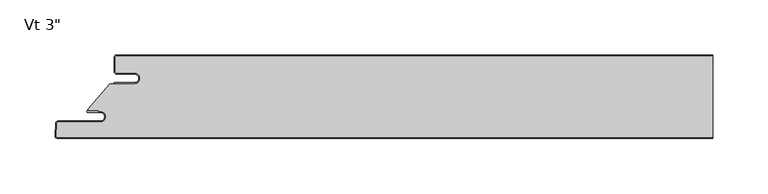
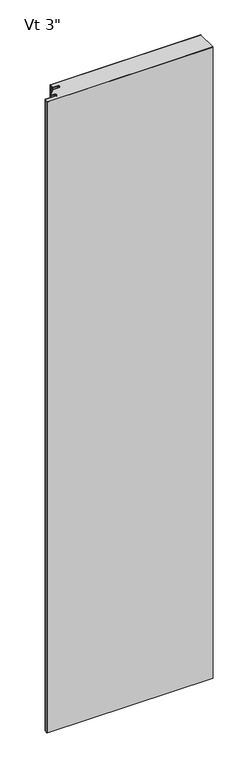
"""IFC4 building model written with IfcOpenShell, lengths in millimetres: plate geometry."""

from ifc_helpers import new_model, si_unit, point, frame_2d, origin, origin_with_axes, place, context, project, spatial, polyline, circle_curve, trimmed, segment, composite_curve, outline, extrude, source, transform, mapped, element, save


def plate_7f3386e1(model_context):
    return source(origin(), model_context, "Body", "SweptSolid", [
        extrude(outline(composite_curve([segment(polyline([(-253.4499998, -16.4625), (-269.3249998, -16.4625)]), True, "CONTINUOUS"), segment(trimmed(circle_curve(frame_2d((-269.3249998, -15.08125)), 1.38125), [point((-269.3249998, -16.4625))], [point((-270.7062498, -15.08125))], False, "CARTESIAN"), True, "CONTINUOUS"), segment(polyline([(-270.7062498, -15.08125), (-270.7062498, -2.38125)]), True, "CONTINUOUS"), segment(trimmed(circle_curve(frame_2d((-269.3249998, -2.38125)), 1.38125), [point((-270.7062498, -2.38125))], [point((-269.3249998, -1.0))], False, "CARTESIAN"), True, "CONTINUOUS"), segment(polyline([(-269.3249998, -1.0), (272.4999998, -1.0), (272.4999998, -75.2), (-323.1862034, -75.2)]), True, "CONTINUOUS"), segment(trimmed(circle_curve(frame_2d((-323.1862034, -73.81875)), 1.38125), [point((-323.1862034, -75.2))], [point((-324.5655604, -73.746461))], False, "CARTESIAN"), True, "CONTINUOUS"), segment(polyline([(-324.5655604, -73.746461), (-323.983179, -62.633961)]), True, "CONTINUOUS"), segment(trimmed(circle_curve(frame_2d((-322.6038219, -62.70625)), 1.38125), [point((-323.983179, -62.633961))], [point((-322.6038219, -61.325))], False, "CARTESIAN"), True, "CONTINUOUS"), segment(polyline([(-322.6038219, -61.325), (-284.4205173, -61.325)]), True, "CONTINUOUS"), segment(trimmed(circle_curve(frame_2d((-284.4205173, -56.35625)), 4.96875), [point((-284.4205173, -61.325))], [point((-284.4205173, -51.3875))], True, "CARTESIAN"), True, "CONTINUOUS"), segment(polyline([(-284.4205173, -51.3875), (-286.0080173, -51.59375), (-286.0080173, -50.8), (-295.5187498, -50.8), (-295.5187498, -49.2157227), (-275.6323421, -26.4), (-253.4499998, -26.4)]), True, "CONTINUOUS"), segment(trimmed(circle_curve(frame_2d((-253.4499998, -21.43125)), 4.96875), [point((-253.4499998, -26.4))], [point((-253.4499998, -16.4625))], True, "CARTESIAN"), True, "CONTINUOUS")], self_intersect=False)), origin_with_axes(), (0.0, 0.0, 1.0), 2400.0),
        extrude(outline(composite_curve([segment(polyline([(-271.7062498, -25.4), (-253.4499998, -25.4)]), True, "CONTINUOUS"), segment(trimmed(circle_curve(frame_2d((-253.4499998, -21.43125)), 3.96875), [point((-253.4499998, -25.4))], [point((-253.4499998, -17.4625))], True, "CARTESIAN"), True, "CONTINUOUS"), segment(polyline([(-253.4499998, -17.4625), (-269.3249998, -17.4625)]), True, "CONTINUOUS"), segment(trimmed(circle_curve(frame_2d((-269.3249998, -15.08125)), 2.38125), [point((-269.3249998, -17.4625))], [point((-271.7062498, -15.08125))], False, "CARTESIAN"), True, "CONTINUOUS"), segment(polyline([(-271.7062498, -15.08125), (-271.7062498, -2.38125)]), True, "CONTINUOUS"), segment(trimmed(circle_curve(frame_2d((-269.3249998, -2.38125)), 2.38125), [point((-271.7062498, -2.38125))], [point((-269.3249998, 0.0))], False, "CARTESIAN"), True, "CONTINUOUS"), segment(polyline([(-269.3249998, 0.0), (272.4999998, 0.0), (272.4999998, -1.0), (-269.3249998, -1.0)]), True, "CONTINUOUS"), segment(trimmed(circle_curve(frame_2d((-269.3249998, -2.38125)), 1.38125), [point((-269.3249998, -1.0))], [point((-270.7062498, -2.38125))], True, "CARTESIAN"), True, "CONTINUOUS"), segment(polyline([(-270.7062498, -2.38125), (-270.7062498, -15.08125)]), True, "CONTINUOUS"), segment(trimmed(circle_curve(frame_2d((-269.3249998, -15.08125)), 1.38125), [point((-270.7062498, -15.08125))], [point((-269.3249998, -16.4625))], True, "CARTESIAN"), True, "CONTINUOUS"), segment(polyline([(-269.3249998, -16.4625), (-253.4499998, -16.4625)]), True, "CONTINUOUS"), segment(trimmed(circle_curve(frame_2d((-253.4499998, -21.43125)), 4.96875), [point((-253.4499998, -16.4625))], [point((-253.4499998, -26.4))], False, "CARTESIAN"), True, "CONTINUOUS"), segment(polyline([(-253.4499998, -26.4), (-271.7062498, -26.4), (-271.7062498, -25.4)]), True, "CONTINUOUS")], self_intersect=False)), origin_with_axes(), (0.0, 0.0, 1.0), 2400.0),
        extrude(outline(composite_curve([segment(polyline([(-295.7314548, -50.8), (-286.0080173, -50.8), (-286.0080173, -51.59375), (-284.4205173, -51.3875)]), True, "CONTINUOUS"), segment(trimmed(circle_curve(frame_2d((-284.4205173, -56.35625)), 4.96875), [point((-284.4205173, -51.3875))], [point((-284.4205173, -61.325))], False, "CARTESIAN"), True, "CONTINUOUS"), segment(polyline([(-284.4205173, -61.325), (-322.6038219, -61.325)]), True, "CONTINUOUS"), segment(trimmed(circle_curve(frame_2d((-322.6038219, -62.70625)), 1.38125), [point((-322.6038219, -61.325))], [point((-323.983179, -62.633961))], True, "CARTESIAN"), True, "CONTINUOUS"), segment(polyline([(-323.983179, -62.633961), (-324.5655604, -73.746461)]), True, "CONTINUOUS"), segment(trimmed(circle_curve(frame_2d((-323.1862034, -73.81875)), 1.38125), [point((-324.5655604, -73.746461))], [point((-323.1862034, -75.2))], True, "CARTESIAN"), True, "CONTINUOUS"), segment(polyline([(-323.1862034, -75.2), (272.4999998, -75.2), (272.4999998, -76.2), (-323.1862034, -76.2)]), True, "CONTINUOUS"), segment(trimmed(circle_curve(frame_2d((-323.1862034, -73.81875)), 2.38125), [point((-323.1862034, -76.2))], [point((-325.5641899, -73.694125))], False, "CARTESIAN"), True, "CONTINUOUS"), segment(polyline([(-325.5641899, -73.694125), (-324.9818085, -62.581625)]), True, "CONTINUOUS"), segment(trimmed(circle_curve(frame_2d((-322.6038219, -62.70625)), 2.38125), [point((-324.9818085, -62.581625))], [point((-322.6038219, -60.325))], False, "CARTESIAN"), True, "CONTINUOUS"), segment(polyline([(-322.6038219, -60.325), (-284.4205173, -60.325)]), True, "CONTINUOUS"), segment(trimmed(circle_curve(frame_2d((-284.4205173, -56.35625)), 3.96875), [point((-284.4205173, -60.325))], [point((-284.4205173, -52.3875))], True, "CARTESIAN"), True, "CONTINUOUS"), segment(polyline([(-284.4205173, -52.3875), (-295.7314548, -52.3875)]), True, "CONTINUOUS"), segment(trimmed(circle_curve(frame_2d((-295.7314548, -51.59375)), 0.79375), [point((-295.7314548, -52.3875))], [point((-295.7314548, -50.8))], False, "CARTESIAN"), True, "CONTINUOUS")], self_intersect=False)), origin_with_axes(), (0.0, 0.0, 1.0), 2400.0),
    ])


if __name__ == "__main__":
    model = new_model("IFC4")
    model_context = context("Model", 3, world=origin())
    ifc_project = project(units=[si_unit("LENGTHUNIT", "METRE", prefix="MILLI")], contexts=[model_context])
    site = spatial("IfcSite", under=ifc_project)
    building = spatial("IfcBuilding", under=site)
    placement = place(None, origin())
    plate_shape = plate_7f3386e1(model_context)
    element("IfcPlate", 1, ObjectType="KIP-36-DWTR-R19-CP-Vt-F : Vt 3\"", at=placement, inside=building, context=model_context, shape_type="MappedRepresentation", body=[
        mapped(plate_shape, transform((0.0, 0.0, 0.0), x_axis=(1.0, 0.0, 0.0), y_axis=(0.0, 1.0, 0.0), z_axis=(0.0, 0.0, 1.0))),
    ])
    save(model, "model.ifc")
